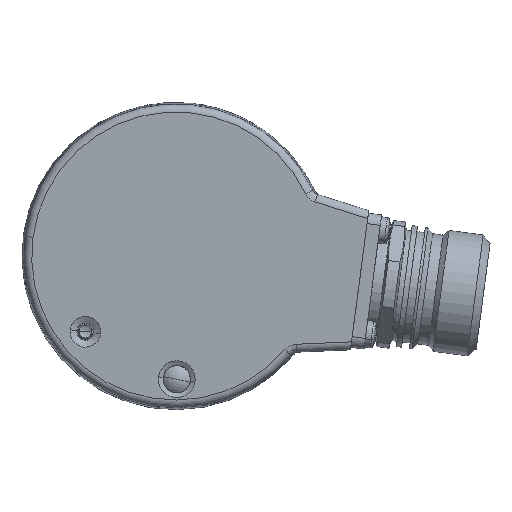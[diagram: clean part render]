
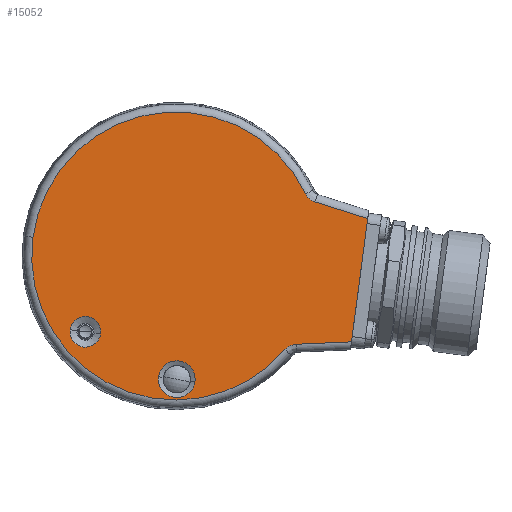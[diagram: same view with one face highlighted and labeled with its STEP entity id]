
A CAD part, left-side view. The second image highlights one B-rep face of the part: STEP entity #15052.
In plain terms, the highlighted planar face has unit normal (-1, 0, 0).
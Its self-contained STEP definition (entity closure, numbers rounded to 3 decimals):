
#3995 = CARTESIAN_POINT ( 'NONE',  ( -19., 14.17, -14.68 ) ) ;
#3996 = CARTESIAN_POINT ( 'NONE',  ( -19., -24.5, 11.752 ) ) ;
#4002 = CARTESIAN_POINT ( 'NONE',  ( -19., -33.17, -16.195 ) ) ;
#4809 = EDGE_CURVE ( 'NONE', #15250, #15297, #10104, .T. ) ;
#6674 = CARTESIAN_POINT ( 'NONE',  ( -19., -26.303, 10.189 ) ) ;
#6675 = CARTESIAN_POINT ( 'NONE',  ( -19., -26.106, 10.251 ) ) ;
#6676 = CARTESIAN_POINT ( 'NONE',  ( -19., -25.919, 10.332 ) ) ;
#6677 = CARTESIAN_POINT ( 'NONE',  ( -19., -25.564, 10.53 ) ) ;
#6678 = CARTESIAN_POINT ( 'NONE',  ( -19., -25.394, 10.649 ) ) ;
#6679 = CARTESIAN_POINT ( 'NONE',  ( -19., -25.085, 10.917 ) ) ;
#6680 = CARTESIAN_POINT ( 'NONE',  ( -19., -24.946, 11.065 ) ) ;
#6681 = CARTESIAN_POINT ( 'NONE',  ( -19., -24.697, 11.39 ) ) ;
#6682 = CARTESIAN_POINT ( 'NONE',  ( -19., -24.589, 11.567 ) ) ;
#6683 = CARTESIAN_POINT ( 'NONE',  ( -19., -24.5, 11.752 ) ) ;
#6691 = B_SPLINE_CURVE_WITH_KNOTS ( 'NONE', 3,
 ( #6683, #6682, #6681, #6680, #6679, #6678, #6677, #6676, #6675, #6674 ),
 .UNSPECIFIED., .F., .F.,
 ( 4, 2, 2, 2, 4 ),
 ( 0., 0.001, 0.001, 0.002, 0.002 ),
 .UNSPECIFIED. ) ;
#6737 = CARTESIAN_POINT ( 'NONE',  ( -19., -20.623, -17.693 ) ) ;
#6738 = CARTESIAN_POINT ( 'NONE',  ( -19., -20.757, -17.536 ) ) ;
#6739 = CARTESIAN_POINT ( 'NONE',  ( -19., -20.905, -17.396 ) ) ;
#6740 = CARTESIAN_POINT ( 'NONE',  ( -19., -21.227, -17.148 ) ) ;
#6741 = CARTESIAN_POINT ( 'NONE',  ( -19., -21.404, -17.038 ) ) ;
#6742 = CARTESIAN_POINT ( 'NONE',  ( -19., -21.771, -16.859 ) ) ;
#6743 = CARTESIAN_POINT ( 'NONE',  ( -19., -21.962, -16.789 ) ) ;
#6744 = CARTESIAN_POINT ( 'NONE',  ( -19., -22.358, -16.688 ) ) ;
#6745 = CARTESIAN_POINT ( 'NONE',  ( -19., -22.564, -16.658 ) ) ;
#6746 = CARTESIAN_POINT ( 'NONE',  ( -19., -22.77, -16.649 ) ) ;
#6752 = B_SPLINE_CURVE_WITH_KNOTS ( 'NONE', 3,
 ( #6746, #6745, #6744, #6743, #6742, #6741, #6740, #6739, #6738, #6737 ),
 .UNSPECIFIED., .F., .F.,
 ( 4, 2, 2, 2, 4 ),
 ( 0., 0.001, 0.001, 0.002, 0.002 ),
 .UNSPECIFIED. ) ;
#6964 = FACE_OUTER_BOUND ( 'NONE', #15051, .T. ) ;
#6965 = FACE_BOUND ( 'NONE', #15047, .T. ) ;
#6966 = FACE_BOUND ( 'NONE', #15058, .T. ) ;
#6967 = DIRECTION ( 'NONE',  ( 0., 0.131, -0.991 ) ) ;
#6968 = VECTOR ( 'NONE', #6967, 1000. ) ;
#6969 = CARTESIAN_POINT ( 'NONE',  ( -19., -36.43, 8.568 ) ) ;
#6970 = LINE ( 'NONE', #6969, #6968 ) ;
#6972 = DIRECTION ( 'NONE',  ( 0., 0.991, 0.131 ) ) ;
#6973 = DIRECTION ( 'NONE',  ( 1., 0., 0. ) ) ;
#6974 = CARTESIAN_POINT ( 'NONE',  ( -19., -0.203, -23.249 ) ) ;
#6975 = AXIS2_PLACEMENT_3D ( 'NONE', #6974, #6973, #6972 ) ;
#6976 = CIRCLE ( 'NONE', #6975, 3.466 ) ;
#7007 = DIRECTION ( 'NONE',  ( 0., 0.991, 0.131 ) ) ;
#7008 = DIRECTION ( 'NONE',  ( 1., 0., 0. ) ) ;
#7009 = CARTESIAN_POINT ( 'NONE',  ( -19., 17.044, -14.302 ) ) ;
#7010 = AXIS2_PLACEMENT_3D ( 'NONE', #7009, #7008, #7007 ) ;
#7011 = CIRCLE ( 'NONE', #7010, 2.899 ) ;
#7012 = DIRECTION ( 'NONE',  ( 0., 0.991, 0.131 ) ) ;
#7013 = DIRECTION ( 'NONE',  ( 1., 0., 0. ) ) ;
#7014 = CARTESIAN_POINT ( 'NONE',  ( -19., 0., 0. ) ) ;
#7015 = AXIS2_PLACEMENT_3D ( 'NONE', #7014, #7013, #7012 ) ;
#7016 = PLANE ( 'NONE',  #7015 ) ;
#7092 = CIRCLE ( 'NONE', #7145, 27.173 ) ;
#7097 = CARTESIAN_POINT ( 'NONE',  ( -19., -20.623, -17.693 ) ) ;
#7098 = CARTESIAN_POINT ( 'NONE',  ( -19., 26.94, 3.547 ) ) ;
#7129 = DIRECTION ( 'NONE',  ( 0., 0.991, 0.131 ) ) ;
#7130 = DIRECTION ( 'NONE',  ( 1., 0., 0. ) ) ;
#7131 = CARTESIAN_POINT ( 'NONE',  ( -19., -0.203, -23.249 ) ) ;
#7132 = AXIS2_PLACEMENT_3D ( 'NONE', #7131, #7130, #7129 ) ;
#7133 = CIRCLE ( 'NONE', #7132, 3.466 ) ;
#7140 = CARTESIAN_POINT ( 'NONE',  ( -19., -3.639, -23.702 ) ) ;
#7142 = DIRECTION ( 'NONE',  ( 0., 0.991, 0.131 ) ) ;
#7143 = DIRECTION ( 'NONE',  ( -1., 0., 0. ) ) ;
#7144 = CARTESIAN_POINT ( 'NONE',  ( -19., 0., 0. ) ) ;
#7145 = AXIS2_PLACEMENT_3D ( 'NONE', #7144, #7143, #7142 ) ;
#7180 = CARTESIAN_POINT ( 'NONE',  ( -19., -22.77, -16.649 ) ) ;
#7199 = CARTESIAN_POINT ( 'NONE',  ( -19., -36.231, 7.058 ) ) ;
#7234 = DIRECTION ( 'NONE',  ( 0., -0.999, 0.044 ) ) ;
#7235 = VECTOR ( 'NONE', #7234, 1000. ) ;
#7236 = CARTESIAN_POINT ( 'NONE',  ( -19., -32.906, -16.206 ) ) ;
#7237 = LINE ( 'NONE', #7236, #7235 ) ;
#7364 = CARTESIAN_POINT ( 'NONE',  ( -19., 19.919, -13.924 ) ) ;
#7371 = DIRECTION ( 'NONE',  ( 0., 0.991, 0.131 ) ) ;
#7372 = DIRECTION ( 'NONE',  ( 1., 0., 0. ) ) ;
#7373 = AXIS2_PLACEMENT_3D ( 'NONE', #7379, #7372, #7371 ) ;
#7374 = CIRCLE ( 'NONE', #7373, 2.899 ) ;
#7379 = CARTESIAN_POINT ( 'NONE',  ( -19., 17.044, -14.302 ) ) ;
#7410 = EDGE_CURVE ( 'NONE', #14146, #15106, #10218, .T. ) ;
#10101 = DIRECTION ( 'NONE',  ( 0., 0.954, 0.301 ) ) ;
#10102 = VECTOR ( 'NONE', #10101, 1000. ) ;
#10103 = CARTESIAN_POINT ( 'NONE',  ( -19., -25.648, 10.395 ) ) ;
#10104 = LINE ( 'NONE', #10103, #10102 ) ;
#10214 = DIRECTION ( 'NONE',  ( 0., 0.991, 0.131 ) ) ;
#10215 = DIRECTION ( 'NONE',  ( -1., 0., 0. ) ) ;
#10216 = CARTESIAN_POINT ( 'NONE',  ( -19., 0., 0. ) ) ;
#10217 = AXIS2_PLACEMENT_3D ( 'NONE', #10216, #10215, #10214 ) ;
#10218 = CIRCLE ( 'NONE', #10217, 27.173 ) ;
#14142 = VERTEX_POINT ( 'NONE', #4002 ) ;
#14146 = VERTEX_POINT ( 'NONE', #3996 ) ;
#14148 = VERTEX_POINT ( 'NONE', #3995 ) ;
#14972 = EDGE_CURVE ( 'NONE', #14146, #15297, #6691, .T. ) ;
#14989 = EDGE_CURVE ( 'NONE', #15242, #15108, #6752, .T. ) ;
#15042 = ORIENTED_EDGE ( 'NONE', *, *, #4809, .T. ) ;
#15043 = ORIENTED_EDGE ( 'NONE', *, *, #14972, .F. ) ;
#15045 = EDGE_CURVE ( 'NONE', #15302, #15117, #6976, .T. ) ;
#15046 = ORIENTED_EDGE ( 'NONE', *, *, #15286, .T. ) ;
#15047 = EDGE_LOOP ( 'NONE', ( #15055, #15049 ) ) ;
#15048 = EDGE_CURVE ( 'NONE', #15250, #14142, #6970, .T. ) ;
#15049 = ORIENTED_EDGE ( 'NONE', *, *, #15045, .T. ) ;
#15050 = ORIENTED_EDGE ( 'NONE', *, *, #15059, .T. ) ;
#15051 = EDGE_LOOP ( 'NONE', ( #15056, #15054, #15053, #15042, #15043, #15073, #15069 ) ) ;
#15052 = ADVANCED_FACE ( 'NONE', ( #6966, #6965, #6964 ), #7016, .F. ) ;
#15053 = ORIENTED_EDGE ( 'NONE', *, *, #15048, .F. ) ;
#15054 = ORIENTED_EDGE ( 'NONE', *, *, #15261, .T. ) ;
#15055 = ORIENTED_EDGE ( 'NONE', *, *, #15123, .T. ) ;
#15056 = ORIENTED_EDGE ( 'NONE', *, *, #14989, .F. ) ;
#15058 = EDGE_LOOP ( 'NONE', ( #15046, #15050 ) ) ;
#15059 = EDGE_CURVE ( 'NONE', #15289, #14148, #7011, .T. ) ;
#15069 = ORIENTED_EDGE ( 'NONE', *, *, #15113, .T. ) ;
#15073 = ORIENTED_EDGE ( 'NONE', *, *, #7410, .T. ) ;
#15106 = VERTEX_POINT ( 'NONE', #7098 ) ;
#15108 = VERTEX_POINT ( 'NONE', #7097 ) ;
#15113 = EDGE_CURVE ( 'NONE', #15106, #15108, #7092, .T. ) ;
#15117 = VERTEX_POINT ( 'NONE', #7140 ) ;
#15123 = EDGE_CURVE ( 'NONE', #15117, #15302, #7133, .T. ) ;
#15176 = CARTESIAN_POINT ( 'NONE',  ( -19., -26.303, 10.189 ) ) ;
#15195 = CARTESIAN_POINT ( 'NONE',  ( -19., 3.233, -22.797 ) ) ;
#15242 = VERTEX_POINT ( 'NONE', #7180 ) ;
#15250 = VERTEX_POINT ( 'NONE', #7199 ) ;
#15261 = EDGE_CURVE ( 'NONE', #15242, #14142, #7237, .T. ) ;
#15286 = EDGE_CURVE ( 'NONE', #14148, #15289, #7374, .T. ) ;
#15289 = VERTEX_POINT ( 'NONE', #7364 ) ;
#15297 = VERTEX_POINT ( 'NONE', #15176 ) ;
#15302 = VERTEX_POINT ( 'NONE', #15195 ) ;
